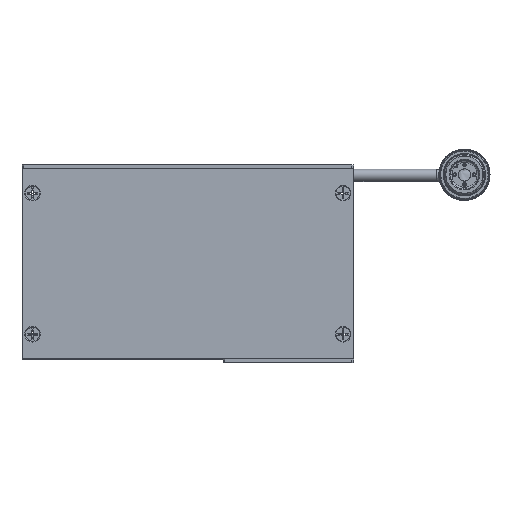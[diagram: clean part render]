
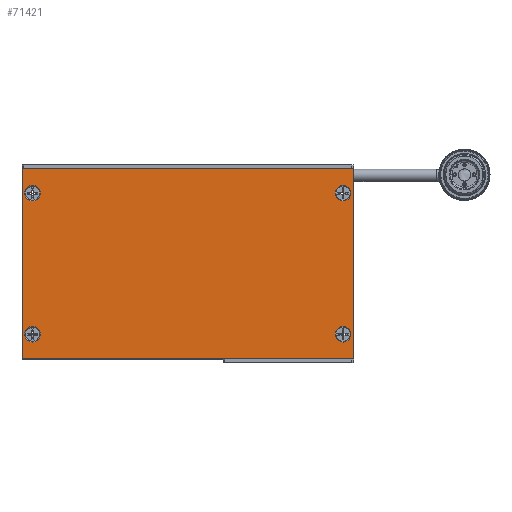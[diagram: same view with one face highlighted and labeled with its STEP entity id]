
A CAD part, top view. The second image highlights one B-rep face of the part: STEP entity #71421.
In plain terms, the highlighted planar face has unit normal (0, 0, 1).
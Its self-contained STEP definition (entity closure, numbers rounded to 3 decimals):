
#7438 = EDGE_CURVE ( 'NONE', #22622, #22523, #87008, .T. ) ;
#7444 = EDGE_CURVE ( 'NONE', #22526, #22523, #87009, .T. ) ;
#7445 = EDGE_CURVE ( 'NONE', #22489, #22562, #87013, .T. ) ;
#7451 = EDGE_CURVE ( 'NONE', #22531, #22509, #87018, .T. ) ;
#7462 = EDGE_CURVE ( 'NONE', #22489, #22548, #87044, .T. ) ;
#7467 = EDGE_CURVE ( 'NONE', #22622, #22509, #87060, .T. ) ;
#7469 = EDGE_CURVE ( 'NONE', #37564, #37564, #86756, .T. ) ;
#7479 = EDGE_CURVE ( 'NONE', #37565, #37565, #86775, .T. ) ;
#7494 = EDGE_CURVE ( 'NONE', #22548, #22526, #87137, .T. ) ;
#7554 = EDGE_CURVE ( 'NONE', #37622, #37622, #86821, .T. ) ;
#7556 = EDGE_CURVE ( 'NONE', #22531, #22562, #87269, .T. ) ;
#7561 = EDGE_CURVE ( 'NONE', #37566, #37566, #86837, .T. ) ;
#8520 = FACE_BOUND ( 'NONE', #11268, .T. ) ;
#8678 = DIRECTION ( 'NONE',  ( 0., 0., -1. ) ) ;
#8692 = FACE_BOUND ( 'NONE', #11312, .T. ) ;
#8734 = CARTESIAN_POINT ( 'NONE',  ( -47., -54., 30. ) ) ;
#8737 = DIRECTION ( 'NONE',  ( 1., 0., 0. ) ) ;
#8764 = FACE_BOUND ( 'NONE', #11221, .T. ) ;
#8767 = FACE_BOUND ( 'NONE', #11265, .T. ) ;
#8769 = FACE_OUTER_BOUND ( 'NONE', #11237, .T. ) ;
#8782 = PLANE ( 'NONE',  #52117 ) ;
#11221 = EDGE_LOOP ( 'NONE', ( #97386 ) ) ;
#11237 = EDGE_LOOP ( 'NONE', ( #97297, #97364, #97341, #97360, #97389, #97352, #97382, #97295 ) ) ;
#11265 = EDGE_LOOP ( 'NONE', ( #97370 ) ) ;
#11268 = EDGE_LOOP ( 'NONE', ( #97377 ) ) ;
#11312 = EDGE_LOOP ( 'NONE', ( #97350 ) ) ;
#22489 = VERTEX_POINT ( 'NONE', #54774 ) ;
#22509 = VERTEX_POINT ( 'NONE', #54773 ) ;
#22523 = VERTEX_POINT ( 'NONE', #54794 ) ;
#22526 = VERTEX_POINT ( 'NONE', #54827 ) ;
#22531 = VERTEX_POINT ( 'NONE', #54798 ) ;
#22548 = VERTEX_POINT ( 'NONE', #54824 ) ;
#22562 = VERTEX_POINT ( 'NONE', #54769 ) ;
#22622 = VERTEX_POINT ( 'NONE', #62464 ) ;
#37467 = CARTESIAN_POINT ( 'NONE',  ( 41.8, -47., 30. ) ) ;
#37535 = CARTESIAN_POINT ( 'NONE',  ( 41.8, -7., 30. ) ) ;
#37564 = VERTEX_POINT ( 'NONE', #37535 ) ;
#37565 = VERTEX_POINT ( 'NONE', #37467 ) ;
#37566 = VERTEX_POINT ( 'NONE', #37620 ) ;
#37620 = CARTESIAN_POINT ( 'NONE',  ( -46.2, -47., 30. ) ) ;
#37622 = VERTEX_POINT ( 'NONE', #37624 ) ;
#37624 = CARTESIAN_POINT ( 'NONE',  ( -46.2, -7., 30. ) ) ;
#52117 = AXIS2_PLACEMENT_3D ( 'NONE', #8734, #8678, #8737 ) ;
#54769 = CARTESIAN_POINT ( 'NONE',  ( 46.7, -54., 30. ) ) ;
#54773 = CARTESIAN_POINT ( 'NONE',  ( -47., -53.7, 30. ) ) ;
#54774 = CARTESIAN_POINT ( 'NONE',  ( 47., -53.7, 30. ) ) ;
#54794 = CARTESIAN_POINT ( 'NONE',  ( -46.7, 0., 30. ) ) ;
#54798 = CARTESIAN_POINT ( 'NONE',  ( -46.7, -54., 30. ) ) ;
#54824 = CARTESIAN_POINT ( 'NONE',  ( 47., -0.3, 30. ) ) ;
#54827 = CARTESIAN_POINT ( 'NONE',  ( 46.7, 0., 30. ) ) ;
#62464 = CARTESIAN_POINT ( 'NONE',  ( -47., -0.3, 30. ) ) ;
#71421 = ADVANCED_FACE ( 'NONE', ( #8769, #8764, #8767, #8692, #8520 ), #8782, .F. ) ;
#86701 = VECTOR ( 'NONE', #86981, 1000. ) ;
#86717 = VECTOR ( 'NONE', #86973, 1000. ) ;
#86727 = VECTOR ( 'NONE', #86997, 1000. ) ;
#86751 = AXIS2_PLACEMENT_3D ( 'NONE', #87108, #87143, #87134 ) ;
#86756 = CIRCLE ( 'NONE', #86789, 2.2 ) ;
#86769 = VECTOR ( 'NONE', #87100, 1000. ) ;
#86775 = CIRCLE ( 'NONE', #86751, 2.2 ) ;
#86781 = VECTOR ( 'NONE', #87016, 1000. ) ;
#86788 = VECTOR ( 'NONE', #87196, 1000. ) ;
#86789 = AXIS2_PLACEMENT_3D ( 'NONE', #87102, #87075, #87083 ) ;
#86799 = VECTOR ( 'NONE', #87057, 1000. ) ;
#86821 = CIRCLE ( 'NONE', #86851, 2.2 ) ;
#86837 = CIRCLE ( 'NONE', #86840, 2.2 ) ;
#86840 = AXIS2_PLACEMENT_3D ( 'NONE', #87262, #87287, #87274 ) ;
#86851 = AXIS2_PLACEMENT_3D ( 'NONE', #87252, #87273, #87248 ) ;
#86870 = VECTOR ( 'NONE', #87267, 1000. ) ;
#86973 = DIRECTION ( 'NONE',  ( 0.707, 0.707, 0. ) ) ;
#86981 = DIRECTION ( 'NONE',  ( -0.707, -0.707, 0. ) ) ;
#86983 = CARTESIAN_POINT ( 'NONE',  ( -47., -0.3, 30. ) ) ;
#86997 = DIRECTION ( 'NONE',  ( -1., 0., 0. ) ) ;
#87002 = CARTESIAN_POINT ( 'NONE',  ( -47., 0., 30. ) ) ;
#87008 = LINE ( 'NONE', #86983, #86717 ) ;
#87009 = LINE ( 'NONE', #87002, #86727 ) ;
#87013 = LINE ( 'NONE', #87014, #86701 ) ;
#87014 = CARTESIAN_POINT ( 'NONE',  ( 47., -53.7, 30. ) ) ;
#87016 = DIRECTION ( 'NONE',  ( -0.707, 0.707, 0. ) ) ;
#87018 = LINE ( 'NONE', #87030, #86781 ) ;
#87030 = CARTESIAN_POINT ( 'NONE',  ( -46.7, -54., 30. ) ) ;
#87044 = LINE ( 'NONE', #87050, #86799 ) ;
#87050 = CARTESIAN_POINT ( 'NONE',  ( 47., 0., 30. ) ) ;
#87057 = DIRECTION ( 'NONE',  ( 0., 1., 0. ) ) ;
#87060 = LINE ( 'NONE', #87072, #86769 ) ;
#87072 = CARTESIAN_POINT ( 'NONE',  ( -47., 0., 30. ) ) ;
#87075 = DIRECTION ( 'NONE',  ( 0., 0., -1. ) ) ;
#87083 = DIRECTION ( 'NONE',  ( -1., 0., 0. ) ) ;
#87100 = DIRECTION ( 'NONE',  ( 0., -1., 0. ) ) ;
#87102 = CARTESIAN_POINT ( 'NONE',  ( 44., -7., 30. ) ) ;
#87108 = CARTESIAN_POINT ( 'NONE',  ( 44., -47., 30. ) ) ;
#87134 = DIRECTION ( 'NONE',  ( -1., 0., 0. ) ) ;
#87137 = LINE ( 'NONE', #87184, #86788 ) ;
#87143 = DIRECTION ( 'NONE',  ( 0., 0., -1. ) ) ;
#87184 = CARTESIAN_POINT ( 'NONE',  ( 46.7, 0., 30. ) ) ;
#87196 = DIRECTION ( 'NONE',  ( -0.707, 0.707, 0. ) ) ;
#87248 = DIRECTION ( 'NONE',  ( -1., 0., 0. ) ) ;
#87252 = CARTESIAN_POINT ( 'NONE',  ( -44., -7., 30. ) ) ;
#87258 = CARTESIAN_POINT ( 'NONE',  ( -47., -54., 30. ) ) ;
#87262 = CARTESIAN_POINT ( 'NONE',  ( -44., -47., 30. ) ) ;
#87267 = DIRECTION ( 'NONE',  ( 1., 0., 0. ) ) ;
#87269 = LINE ( 'NONE', #87258, #86870 ) ;
#87273 = DIRECTION ( 'NONE',  ( 0., 0., -1. ) ) ;
#87274 = DIRECTION ( 'NONE',  ( -1., 0., 0. ) ) ;
#87287 = DIRECTION ( 'NONE',  ( 0., 0., -1. ) ) ;
#97295 = ORIENTED_EDGE ( 'NONE', *, *, #7445, .F. ) ;
#97297 = ORIENTED_EDGE ( 'NONE', *, *, #7462, .T. ) ;
#97341 = ORIENTED_EDGE ( 'NONE', *, *, #7444, .T. ) ;
#97350 = ORIENTED_EDGE ( 'NONE', *, *, #7469, .T. ) ;
#97352 = ORIENTED_EDGE ( 'NONE', *, *, #7451, .F. ) ;
#97360 = ORIENTED_EDGE ( 'NONE', *, *, #7438, .F. ) ;
#97364 = ORIENTED_EDGE ( 'NONE', *, *, #7494, .T. ) ;
#97370 = ORIENTED_EDGE ( 'NONE', *, *, #7554, .T. ) ;
#97377 = ORIENTED_EDGE ( 'NONE', *, *, #7479, .T. ) ;
#97382 = ORIENTED_EDGE ( 'NONE', *, *, #7556, .T. ) ;
#97386 = ORIENTED_EDGE ( 'NONE', *, *, #7561, .T. ) ;
#97389 = ORIENTED_EDGE ( 'NONE', *, *, #7467, .T. ) ;
